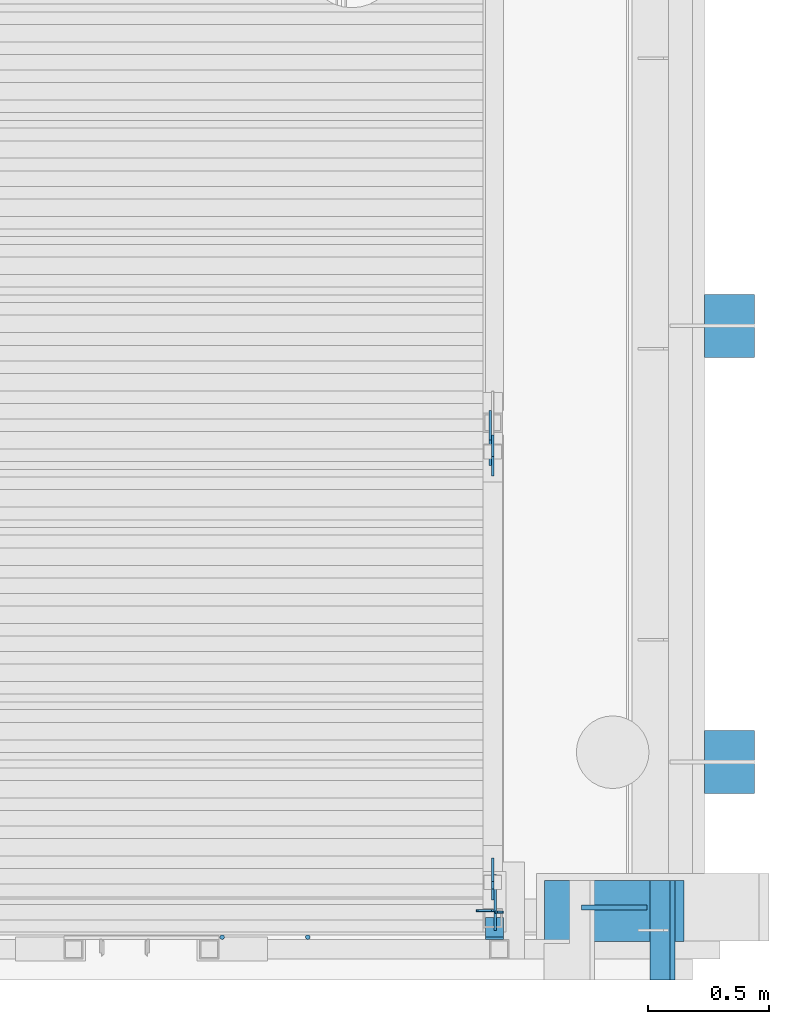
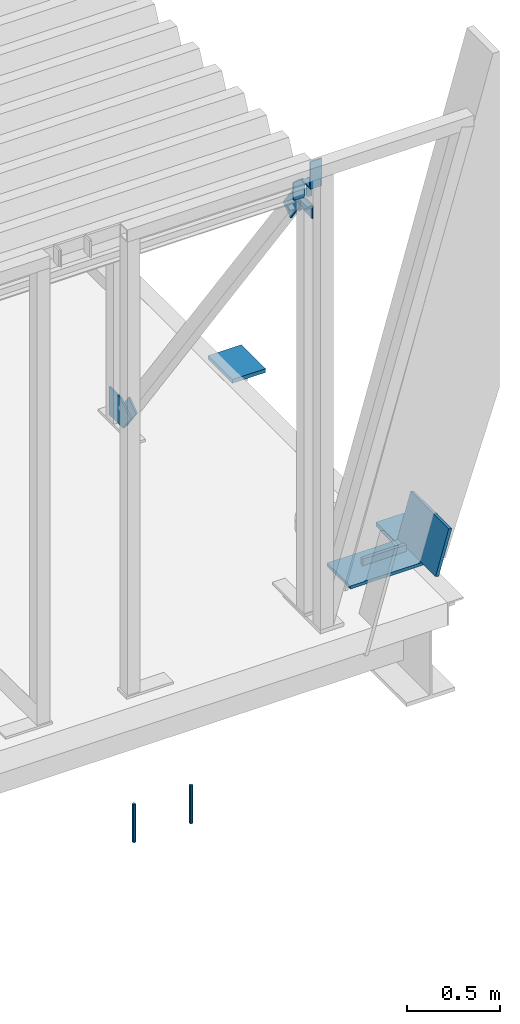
# One storey, part 20 of 30: 13 beams, 1 member.
"""IFC2X3 building model written with IfcOpenShell, lengths in millimetres."""

from ifc_helpers import new_model, entity, si_unit, converted_unit, derived_unit, direction, frame, origin_with_axes, place, context, subcontext, project, spatial, faceted_brep, material, type_object, element, save


model = new_model("IFC2X3")

# Units and contexts
model_context = context("Model", 3, precision=0.01, world=frame((0.0, 4.29681676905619e-09, 0.0)), true_north=direction((4.01073788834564e-13, 1.0)))
plan_context = context("Plan", 3, precision=0.01, world=frame((0.0, 4.29681676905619e-09, 0.0)), true_north=direction((4.01073788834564e-13, 1.0)))
body_context = subcontext(model_context, "Body", "Model", "MODEL_VIEW")
ifc_project = project(units=[converted_unit("PLANEANGLEUNIT", "DEGREE", entity("IfcPositiveLengthMeasure", 0.0174532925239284), si_unit("PLANEANGLEUNIT", "RADIAN"), dimensions=[0, 0, 0, 0, 0, 0, 0]), si_unit("AREAUNIT", "SQUARE_METRE"), si_unit("LENGTHUNIT", "METRE", prefix="MILLI"), si_unit("MASSUNIT", "GRAM", prefix="KILO"), si_unit("POWERUNIT", "WATT"), si_unit("PRESSUREUNIT", "PASCAL"), si_unit("FORCEUNIT", "NEWTON", prefix="KILO"), si_unit("ELECTRICVOLTAGEUNIT", "VOLT"), si_unit("ELECTRICCURRENTUNIT", "AMPERE"), si_unit("THERMODYNAMICTEMPERATUREUNIT", "DEGREE_CELSIUS"), si_unit("TIMEUNIT", "SECOND"), si_unit("VOLUMEUNIT", "CUBIC_METRE"), derived_unit("LINEARVELOCITYUNIT", [(si_unit("LENGTHUNIT", "METRE"), 1), (si_unit("TIMEUNIT", "SECOND"), -1)]), derived_unit("VOLUMETRICFLOWRATEUNIT", [(si_unit("VOLUMEUNIT", "CUBIC_METRE"), 1), (si_unit("TIMEUNIT", "SECOND"), -1)]), derived_unit("THERMALTRANSMITTANCEUNIT", [(si_unit("POWERUNIT", "WATT"), 1), (si_unit("THERMODYNAMICTEMPERATUREUNIT", "KELVIN"), -1), (si_unit("AREAUNIT", "SQUARE_METRE"), -1)]), derived_unit("SOUNDPRESSUREUNIT", [(si_unit("PRESSUREUNIT", "PASCAL"), 1)])], contexts=[model_context, plan_context])

# Site, building, storey
site_placement = place(None, frame((0.0, -4.29681676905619e-09, 0.0), z_axis=(0.0, 0.0, 1.0), x_axis=(1.0, 0.0, 0.0)))
site = spatial("IfcSite", under=ifc_project, at=site_placement, Name="Gardermoen", CompositionType="ELEMENT")
building_placement = place(site_placement, frame((0.0, 4.29681676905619e-09, 0.0), z_axis=(0.0, 0.0, 1.0), x_axis=(1.0, 0.0, 0.0)))
building = spatial("IfcBuilding", under=site, at=building_placement, Name="TI", CompositionType="ELEMENT")
storey_placement = place(building_placement, origin_with_axes())
storey = spatial("IfcBuildingStorey", under=building, at=storey_placement, Name="F", CompositionType="ELEMENT", Elevation=0.0)

# Beams
ifc_material_1 = material(Name="STEEL/S355J2H")
beam_type_1 = type_object("IfcBeamType", Name="PL10*100", PredefinedType="NOTDEFINED")
beam_1_placement = place(storey_placement, frame((611289.64002631, 689354.822764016, 213526.832035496), z_axis=(-3.00002284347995e-09, -0.809478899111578, -0.587148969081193), x_axis=(1.99982644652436e-09, 0.587148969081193, -0.809478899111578)))
element("IfcBeam", 1, at=beam_1_placement, inside=storey, type_object=beam_type_1, material=ifc_material_1, Name="STÅLBJELKE", ObjectType="PL10*100", context=body_context, shape_type="Brep", body=[
    faceted_brep([(2.03726813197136e-10, 4.99999999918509, 30.6568272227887), (2.03726813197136e-10, -5.00000000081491, 30.6568337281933), (26.6676529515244, -5.00000000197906, 50.0000000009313), (26.6676619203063, 4.99999999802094, 50.0000000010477), (184.999991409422, -5.00000000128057, 50.000000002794), (184.999991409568, 4.99999999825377, 50.0000000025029), (184.999991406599, -5.00000000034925, -49.9999999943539), (184.999991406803, 4.99999999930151, -49.9999999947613), (17.5351831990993, -4.99999999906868, -49.9999999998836), (17.535183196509, 5.00000000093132, -49.9999999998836), (-1.74622982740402e-10, 5.00000000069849, -25.8249414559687), (-1.45519152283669e-10, -4.99999999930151, -25.8249414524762)], [[[0, 1, 2, 3]], [[4, 5, 3, 2]], [[4, 6, 7, 5]], [[7, 6, 8, 9]], [[0, 3, 5, 7, 9, 10]], [[1, 0, 10, 11]], [[6, 4, 2, 1, 11, 8]], [[10, 9, 8, 11]]]),
])
beam_2_placement = place(storey_placement, frame((611289.640028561, 691228.948382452, 210943.049691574), z_axis=(-2.48429132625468e-07, 0.809478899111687, 0.587148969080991), x_axis=(0.0, -0.587148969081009, 0.809478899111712)))
element("IfcBeam", 2, at=beam_2_placement, inside=storey, type_object=beam_type_1, material=ifc_material_1, Name="STÅLBJELKE", ObjectType="PL10*100", context=body_context, shape_type="Brep", body=[
    faceted_brep([(0.0, -4.99999999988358, -50.0000000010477), (8.73114913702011e-11, 5.00000000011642, -50.0000000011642), (184.999991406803, 4.99999999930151, -49.9999999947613), (184.999991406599, -5.00000000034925, -49.9999999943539), (184.999991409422, -5.00000000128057, 50.000000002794), (184.999991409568, 4.99999999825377, 50.0000000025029), (32.9685505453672, -5.00000000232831, 50.0000000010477), (1.16415321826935e-10, -5.00000000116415, 26.086528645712), (5.82076609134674e-11, 4.99999999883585, 26.0865286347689), (32.9685505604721, 4.99999999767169, 50.0000000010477)], [[[0, 1, 2, 3]], [[4, 3, 2, 5]], [[0, 3, 4, 6, 7]], [[1, 0, 7, 8]], [[5, 2, 1, 8, 9]], [[4, 5, 9, 6]], [[8, 7, 6, 9]]]),
])
ifc_material_2 = material(Name="STEEL/S355")
beam_type_2 = type_object("IfcBeamType", Name="PL20*250", PredefinedType="NOTDEFINED")
beam_3_placement = place(storey_placement, frame((611503.803858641, 689284.760836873, 211010.046465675), z_axis=(0.0, -1.0, 0.0), x_axis=(1.0, 0.0, 0.0)))
element("IfcBeam", 3, at=beam_3_placement, inside=storey, type_object=beam_type_2, material=ifc_material_2, Name="STÅLSØYLE", ObjectType="PL20*250", context=body_context, shape_type="Brep", body=[
    faceted_brep([(-3.72529029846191e-09, 9.99999999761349, -125.000000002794), (3.37604433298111e-09, 10.0000000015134, 125.000000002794), (574.793932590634, 9.99999999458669, 125.0), (574.793932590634, 9.99999999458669, -125.0), (3.72529029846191e-09, -9.99999999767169, 125.000000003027), (574.793932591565, -10.0000000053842, 125.0), (-3.37604433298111e-09, -10.0000000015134, -125.000000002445), (574.793932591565, -10.0000000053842, -125.0)], [[[0, 1, 2, 3]], [[1, 4, 5, 2]], [[4, 6, 7, 5]], [[6, 0, 3, 7]], [[5, 7, 3, 2]], [[6, 4, 1, 0]]]),
])
beam_type_3 = type_object("IfcBeamType", Name="PL20*45", PredefinedType="NOTDEFINED")
beam_4_placement = place(storey_placement, frame((611927.198710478, 689299.760836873, 211042.54612698), z_axis=(0.0, 0.0, 1.0), x_axis=(-0.999999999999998, 5.80000057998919e-08, 0.0)))
element("IfcBeam", 4, at=beam_4_placement, inside=storey, type_object=beam_type_3, material=ifc_material_2, Name="STÅLSØYLE", ObjectType="PL20*45", context=body_context, shape_type="Brep", body=[
    faceted_brep([(2.3283064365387e-10, 10.0, -22.4999999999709), (0.0, 10.0, 22.5000000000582), (270.0, 10.0, 22.5000000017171), (270.000000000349, 10.0, -22.499999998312), (0.0, -10.0, 22.5000000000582), (270.0, -10.0, 22.5000000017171), (2.3283064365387e-10, -10.0, -22.4999999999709), (270.000000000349, -10.0, -22.499999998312)], [[[0, 1, 2, 3]], [[1, 4, 5, 2]], [[4, 6, 7, 5]], [[6, 0, 3, 7]], [[5, 7, 3, 2]], [[6, 4, 1, 0]]]),
])
beam_type_4 = type_object("IfcBeamType", Name="PL260*25", PredefinedType="NOTDEFINED")
for number, where, z_axis, x_axis in (
    (5, (612165.000134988, 691699.995422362, 210667.500000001), (0.0, 1.0, 0.0), (0.999999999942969, 0.0, 1.06800001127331e-05)),
    (6, (612165.000134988, 689899.946594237, 210667.500000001), (0.0, 1.0, 0.0), (0.999999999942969, 0.0, 1.06800001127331e-05)),
):
    element("IfcBeam", number, at=place(storey_placement, frame(where, z_axis=z_axis, x_axis=x_axis)), inside=storey, type_object=beam_type_4, material=ifc_material_2, Name="STÅLBJELKE", ObjectType="PL260*25", context=body_context, shape_type="Brep", body=[
        faceted_brep([(-5.82076609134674e-10, 12.5, -130.0), (-5.82076609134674e-10, 12.5, 130.0), (206.026725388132, 12.5000000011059, 130.0), (206.026725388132, 12.5000000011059, -130.0), (3.49245965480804e-10, -12.4999999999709, 130.0), (206.026725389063, -12.499999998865, 130.0), (3.49245965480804e-10, -12.4999999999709, -130.0), (206.026725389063, -12.499999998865, -130.0)], [[[0, 1, 2, 3]], [[1, 4, 5, 2]], [[4, 6, 7, 5]], [[6, 0, 3, 7]], [[5, 7, 3, 2]], [[6, 4, 1, 0]]]),
    ])
beam_type_5 = type_object("IfcBeamType", Name="PL8*72", PredefinedType="NOTDEFINED")
beam_5_placement = place(storey_placement, frame((611254.639328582, 689286.344805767, 213567.899699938), z_axis=(0.0, 0.0, 1.0), x_axis=(1.0, 0.0, 0.0)))
element("IfcBeam", 7, at=beam_5_placement, inside=storey, type_object=beam_type_5, material=ifc_material_2, Name="STÅLBJELKE", ObjectType="PL8*72", context=body_context, shape_type="Brep", body=[
    faceted_brep([(-5.82076609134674e-11, -3.99999999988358, 0.0), (-32.3599967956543, -3.99999999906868, 7.09999990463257), (-32.3599967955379, 4.00000000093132, 7.09999990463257), (-5.82076609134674e-11, 4.00000000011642, -5.82076609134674e-11), (-32.3599967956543, -3.99999999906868, 117.100196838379), (-32.3599967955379, 4.00000000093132, 117.100196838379), (0.0, -3.99999999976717, 124.099998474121), (1.16415321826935e-10, 4.00000000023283, 124.099998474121), (30.0, -4.00000000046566, 124.099998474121), (30.0000000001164, 3.99999999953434, 124.099998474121), (40.0, -4.00000000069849, 114.099998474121), (40.0000000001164, 3.99999999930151, 114.099998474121), (40.0, -4.00000000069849, 10.0), (40.0000000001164, 3.99999999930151, 10.0), (30.0000000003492, -3.99999999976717, 0.0), (30.0000000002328, 4.00000000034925, 1.16415321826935e-10)], [[[0, 1, 2, 3]], [[1, 4, 5, 2]], [[4, 6, 7, 5]], [[6, 8, 9, 7]], [[8, 10, 11, 9]], [[10, 12, 13, 11]], [[12, 14, 15, 13]], [[14, 0, 3, 15]], [[5, 7, 9, 11, 13, 15, 3, 2]], [[14, 12, 10, 8, 6, 4, 1, 0]]]),
])
beam_type_6 = type_object("IfcBeamType", Name="L180*90*10", PredefinedType="NOTDEFINED")
beam_6_placement = place(storey_placement, frame((611333.491393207, 689212.502531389, 213789.999618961), z_axis=(2.7000030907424e-08, 1.81367307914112e-12, 1.0), x_axis=(-0.999999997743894, -6.71729999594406e-05, 2.70000309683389e-08)))
element("IfcBeam", 8, at=beam_6_placement, inside=storey, type_object=beam_type_6, material=ifc_material_2, Name="STÅLBJELKE", ObjectType="L180*90*10", context=body_context, shape_type="Brep", body=[
    faceted_brep([(2.09547579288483e-09, 44.9999999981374, -90.0), (2.09547579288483e-09, 44.9999999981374, 90.0), (72.999662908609, 45.0000000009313, 90.0), (72.999662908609, 45.0000000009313, -90.0), (1.62981450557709e-09, 34.9999999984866, 90.0), (72.9996629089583, 35.0000000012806, 90.0), (-2.3283064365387e-10, 35.0000000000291, -80.000000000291), (72.9996629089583, 35.0000000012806, -80.0), (-2.3283064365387e-09, -44.9999999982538, -80.0), (72.9996629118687, -44.9999999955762, -80.0), (-2.3283064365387e-09, -44.9999999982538, -90.0), (72.9996629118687, -44.9999999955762, -90.0)], [[[0, 1, 2, 3]], [[1, 4, 5, 2]], [[4, 6, 7, 5]], [[6, 8, 9, 7]], [[8, 10, 11, 9]], [[10, 0, 3, 11]], [[5, 7, 9, 11, 3, 2]], [[10, 8, 6, 4, 1, 0]]]),
])
ifc_material_3 = material(Name="STEEL/S355J0")
beam_type_7 = type_object("IfcBeamType", Name="PL8*33", PredefinedType="NOTDEFINED")
beam_7_placement = place(storey_placement, frame((611332.932506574, 689280.007545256, 213567.899847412), z_axis=(1.00195757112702e-09, 3.72327434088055e-15, 1.0), x_axis=(-0.999999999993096, -3.71600000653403e-06, 1.00195757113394e-09)))
element("IfcBeam", 9, at=beam_7_placement, inside=storey, type_object=beam_type_7, material=ifc_material_3, Name="STÅLBJELKE", ObjectType="PL8*33", context=body_context, shape_type="Brep", body=[
    faceted_brep([(-5.82076609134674e-11, -3.99999999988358, 0.0), (0.0, -3.99999999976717, 124.099998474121), (1.16415321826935e-10, 4.00000000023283, 124.099998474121), (-5.82076609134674e-11, 4.00000000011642, -5.82076609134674e-11), (23.0000000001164, -4.00000000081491, 124.099998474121), (23.0000000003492, 3.99999999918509, 124.099998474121), (33.0000000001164, -4.00000000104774, 114.099998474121), (33.0000000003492, 3.99999999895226, 114.099998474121), (33.0000000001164, -4.00000000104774, 9.99999999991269), (33.0000000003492, 3.99999999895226, 9.99999999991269), (23.0000000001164, -4.00000000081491, -5.82076609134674e-11), (23.0000000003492, 3.99999999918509, -5.82076609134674e-11)], [[[0, 1, 2, 3]], [[1, 4, 5, 2]], [[4, 6, 7, 5]], [[6, 8, 9, 7]], [[8, 10, 11, 9]], [[10, 0, 3, 11]], [[5, 7, 9, 11, 3, 2]], [[10, 8, 6, 4, 1, 0]]]),
])
beam_type_8 = type_object("IfcBeamType", Name="PL10*117", PredefinedType="NOTDEFINED")
beam_8_placement = place(storey_placement, frame((611299.640018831, 689398.333523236, 213551.996696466), z_axis=(-1.39999901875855e-08, -1.00889999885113e-05, -0.999999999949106), x_axis=(-9.63199365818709e-15, -0.999999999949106, 1.00889999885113e-05)))
element("IfcBeam", 10, at=beam_8_placement, inside=storey, type_object=beam_type_8, material=ifc_material_1, Name="STÅLBJELKE", ObjectType="PL10*117", context=body_context, shape_type="Brep", body=[
    faceted_brep([(0.0, -5.0, 0.0), (-38.0641517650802, -4.99999999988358, 52.4703483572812), (-38.0641517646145, 5.00000000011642, 52.4703483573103), (0.0, 5.0, 0.0), (50.9768829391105, -5.00000000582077, 117.06216430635), (50.9768829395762, 4.99999999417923, 117.062164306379), (78.3260192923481, -5.0000000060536, 79.3589019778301), (78.3260192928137, 4.9999999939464, 79.3589019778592), (193.32887269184, -5.00000001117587, 79.3638992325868), (193.328872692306, 4.99999998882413, 79.3638992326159), (193.325881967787, -5.00000000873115, 3.02679836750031e-09), (193.325881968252, 4.99999999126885, 3.02679836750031e-09)], [[[0, 1, 2, 3]], [[1, 4, 5, 2]], [[4, 6, 7, 5]], [[6, 8, 9, 7]], [[8, 10, 11, 9]], [[10, 0, 3, 11]], [[5, 7, 9, 11, 3, 2]], [[10, 8, 6, 4, 1, 0]]]),
])
beam_type_9 = type_object("IfcBeamType", Name="PL10*226", PredefinedType="NOTDEFINED")
beam_9_placement = place(storey_placement, frame((611279.640028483, 691350.06679445, 210895.001688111), z_axis=(0.0, -1.0, 0.0), x_axis=(0.0, 0.0, 1.0)))
element("IfcBeam", 11, at=beam_9_placement, inside=storey, type_object=beam_type_9, material=ifc_material_1, Name="STÅLBJELKE", ObjectType="PL10*226", context=body_context, shape_type="Brep", body=[
    faceted_brep([(0.0, -5.0, 0.0), (0.0014255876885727, -5.0, 148.034744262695), (0.0014255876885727, 5.0, 148.034744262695), (0.0, 5.0, 0.0), (108.112579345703, -5.0, 226.457565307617), (108.112579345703, 5.0, 226.457565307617), (184.068984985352, -5.0, 121.744895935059), (184.068984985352, 5.0, 121.744895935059), (184.068984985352, -5.0, -1.04773789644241e-09), (184.068984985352, 5.0, -1.04773789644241e-09)], [[[0, 1, 2, 3]], [[1, 4, 5, 2]], [[4, 6, 7, 5]], [[6, 8, 9, 7]], [[8, 0, 3, 9]], [[5, 7, 9, 3, 2]], [[8, 6, 4, 1, 0]]]),
])
beam_type_10 = type_object("IfcBeamType", Name="M20", PredefinedType="NOTDEFINED")
for number, where, z_axis, x_axis in (
    (12, (610526.779766, 689176.78, 210050.0), (1.0, 0.0, 0.0), (0.0, 0.0, -1.0)),
    (13, (610173.219766, 689176.78, 210050.0), (1.0, 0.0, 0.0), (0.0, 0.0, -1.0)),
):
    element("IfcBeam", number, at=place(storey_placement, frame(where, z_axis=z_axis, x_axis=x_axis)), inside=storey, type_object=beam_type_10, material=ifc_material_2, Name="INNSTØPNGODS", ObjectType="M20", context=body_context, shape_type="Brep", body=[
        faceted_brep([(0.0, -10.0, -1.16415321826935e-10), (0.0, -7.07106781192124, -7.07106781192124), (250.0, -7.07106781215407, -7.07106781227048), (250.0, -10.0000000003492, 1.74622982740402e-10), (0.0, 0.0, -10.0), (250.0, 5.82076609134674e-11, -10.0000000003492), (0.0, 7.07106781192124, -7.07106781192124), (250.0, 7.07106781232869, -7.07106781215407), (0.0, 10.0, -1.16415321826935e-10), (250.0, 10.0, 0.0), (0.0, 7.07106781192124, 7.07106781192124), (250.0, 7.07106781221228, 7.07106781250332), (0.0, 0.0, 10.0), (250.0, -5.82076609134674e-11, 10.0000000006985), (0.0, -7.07106781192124, 7.07106781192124), (250.0, -7.07106781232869, 7.07106781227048)], [[[0, 1, 2, 3]], [[1, 4, 5, 2]], [[4, 6, 7, 5]], [[6, 8, 9, 7]], [[8, 10, 11, 9]], [[10, 12, 13, 11]], [[12, 14, 15, 13]], [[14, 0, 3, 15]], [[5, 7, 9, 11, 13, 15, 3, 2]], [[14, 12, 10, 8, 6, 4, 1, 0]]]),
    ])

# Member
member_type = type_object("IfcMemberType", Name="PL20*820", PredefinedType="NOTDEFINED")
member_placement = place(storey_placement, frame((611949.715842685, 688999.760836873, 211022.811252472), z_axis=(0.0, -1.0, 0.0), x_axis=(0.276515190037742, 0.0, 0.961009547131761)))
element("IfcMember", 14, at=member_placement, inside=storey, type_object=member_type, Name="STÅLSØYLE", ObjectType="PL20*820", context=body_context, shape_type="Brep", body=[
    faceted_brep([(296.760056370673, 9.99999998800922, -0.239163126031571), (-1.30967237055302e-10, 9.99999999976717, -0.239163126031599), (-1.30967237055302e-10, 9.99999999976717, -410.0), (296.760056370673, 9.99999998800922, -410.0), (1.30967237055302e-10, -10.0000000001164, -0.239163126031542), (296.760056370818, -10.000000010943, -0.239163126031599), (296.760056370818, -10.000000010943, -410.0), (1.30967237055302e-10, -10.0000000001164, -410.0)], [[[0, 1, 2, 3]], [[4, 5, 6, 7]], [[6, 3, 2, 7]], [[5, 0, 3, 6]], [[1, 4, 7, 2]], [[5, 4, 1, 0]]], orient=[[False], [False], [False], [False], [False], [False]]),
])

save(model, "model.ifc")
